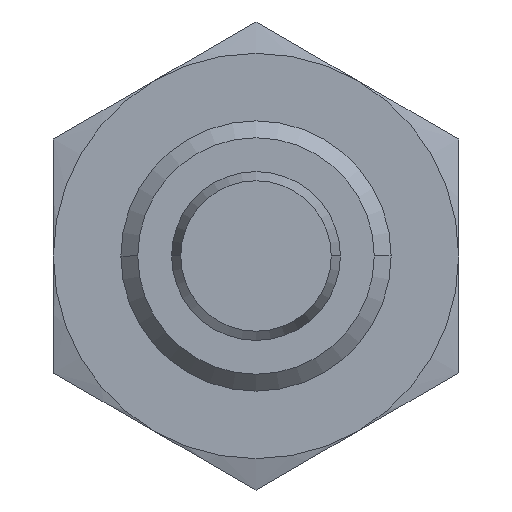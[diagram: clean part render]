
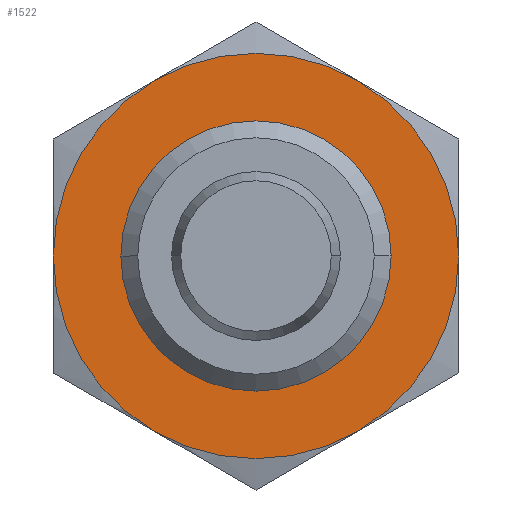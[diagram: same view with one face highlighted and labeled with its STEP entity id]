
A CAD part, front view. The second image highlights one B-rep face of the part: STEP entity #1522.
In plain terms, the highlighted planar face has unit normal (0, -1, 0) as drawn and (0, 0, -1) by its records, which use the part's own axes.
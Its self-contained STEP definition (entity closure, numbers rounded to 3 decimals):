
#36 = EDGE_LOOP ( 'NONE', ( #66, #1346 ) ) ;
#66 = ORIENTED_EDGE ( 'NONE', *, *, #827, .T. ) ;
#119 = ORIENTED_EDGE ( 'NONE', *, *, #3278, .T. ) ;
#146 = CARTESIAN_POINT ( 'NONE',  ( 6., 10.392, -4. ) ) ;
#147 = CARTESIAN_POINT ( 'NONE',  ( 0., -13.856, -4. ) ) ;
#167 = DIRECTION ( 'NONE',  ( 0., 0., -1. ) ) ;
#220 = CIRCLE ( 'NONE', #2770, 12. ) ;
#232 = DIRECTION ( 'NONE',  ( 0., 0., 1. ) ) ;
#253 = DIRECTION ( 'NONE',  ( 0., 0., -1. ) ) ;
#336 = CARTESIAN_POINT ( 'NONE',  ( -6., -10.392, -4. ) ) ;
#388 = EDGE_CURVE ( 'NONE', #1636, #657, #2805, .T. ) ;
#404 = CIRCLE ( 'NONE', #3018, 7.25 ) ;
#414 = DIRECTION ( 'NONE',  ( 0., 0., -1. ) ) ;
#479 = EDGE_CURVE ( 'NONE', #657, #1028, #2694, .T. ) ;
#532 = DIRECTION ( 'NONE',  ( -1., 0., 0. ) ) ;
#590 = AXIS2_PLACEMENT_3D ( 'NONE', #1426, #3186, #532 ) ;
#657 = VERTEX_POINT ( 'NONE', #3747 ) ;
#815 = FACE_OUTER_BOUND ( 'NONE', #1112, .T. ) ;
#817 = VERTEX_POINT ( 'NONE', #3308 ) ;
#819 = CARTESIAN_POINT ( 'NONE',  ( 0., 0., -4. ) ) ;
#827 = EDGE_CURVE ( 'NONE', #2067, #2339, #404, .T. ) ;
#839 = DIRECTION ( 'NONE',  ( 0., 0., -1. ) ) ;
#915 = CARTESIAN_POINT ( 'NONE',  ( 0., 0., -4. ) ) ;
#1028 = VERTEX_POINT ( 'NONE', #146 ) ;
#1038 = EDGE_CURVE ( 'NONE', #1489, #3266, #220, .T. ) ;
#1105 = CARTESIAN_POINT ( 'NONE',  ( 6., -10.392, -4. ) ) ;
#1109 = AXIS2_PLACEMENT_3D ( 'NONE', #2922, #253, #3790 ) ;
#1112 = EDGE_LOOP ( 'NONE', ( #2937, #119, #1402, #1495, #3812, #2433 ) ) ;
#1122 = DIRECTION ( 'NONE',  ( 1., 0., 0. ) ) ;
#1142 = CIRCLE ( 'NONE', #1646, 12. ) ;
#1204 = EDGE_CURVE ( 'NONE', #3266, #1636, #1142, .T. ) ;
#1219 = CARTESIAN_POINT ( 'NONE',  ( -12., 0., -4. ) ) ;
#1346 = ORIENTED_EDGE ( 'NONE', *, *, #3106, .T. ) ;
#1361 = AXIS2_PLACEMENT_3D ( 'NONE', #2284, #3719, #1968 ) ;
#1402 = ORIENTED_EDGE ( 'NONE', *, *, #1038, .T. ) ;
#1426 = CARTESIAN_POINT ( 'NONE',  ( 0., 0., -4. ) ) ;
#1489 = VERTEX_POINT ( 'NONE', #1105 ) ;
#1495 = ORIENTED_EDGE ( 'NONE', *, *, #1204, .T. ) ;
#1522 = ADVANCED_FACE ( 'NONE', ( #815, #3770 ), #2007, .F. ) ;
#1636 = VERTEX_POINT ( 'NONE', #1219 ) ;
#1646 = AXIS2_PLACEMENT_3D ( 'NONE', #915, #2117, #3281 ) ;
#1912 = CARTESIAN_POINT ( 'NONE',  ( 0., 0., -4. ) ) ;
#1930 = DIRECTION ( 'NONE',  ( -1., 0., 0. ) ) ;
#1968 = DIRECTION ( 'NONE',  ( 1., 0., 0. ) ) ;
#2007 = PLANE ( 'NONE',  #3441 ) ;
#2067 = VERTEX_POINT ( 'NONE', #2994 ) ;
#2117 = DIRECTION ( 'NONE',  ( 0., 0., -1. ) ) ;
#2127 = CIRCLE ( 'NONE', #1109, 12. ) ;
#2135 = AXIS2_PLACEMENT_3D ( 'NONE', #819, #839, #2286 ) ;
#2284 = CARTESIAN_POINT ( 'NONE',  ( 0., 0., -4. ) ) ;
#2286 = DIRECTION ( 'NONE',  ( -1., 0., 0. ) ) ;
#2339 = VERTEX_POINT ( 'NONE', #2574 ) ;
#2433 = ORIENTED_EDGE ( 'NONE', *, *, #479, .T. ) ;
#2574 = CARTESIAN_POINT ( 'NONE',  ( 7.25, 0., -4. ) ) ;
#2694 = CIRCLE ( 'NONE', #2135, 12. ) ;
#2738 = CARTESIAN_POINT ( 'NONE',  ( 0., 0., -4. ) ) ;
#2768 = DIRECTION ( 'NONE',  ( 0., 0., 1. ) ) ;
#2770 = AXIS2_PLACEMENT_3D ( 'NONE', #3672, #167, #3144 ) ;
#2805 = CIRCLE ( 'NONE', #3415, 12. ) ;
#2853 = CIRCLE ( 'NONE', #1361, 7.25 ) ;
#2922 = CARTESIAN_POINT ( 'NONE',  ( 0., 0., -4. ) ) ;
#2937 = ORIENTED_EDGE ( 'NONE', *, *, #3734, .T. ) ;
#2994 = CARTESIAN_POINT ( 'NONE',  ( -7.25, 0., -4. ) ) ;
#3018 = AXIS2_PLACEMENT_3D ( 'NONE', #2738, #2768, #3045 ) ;
#3045 = DIRECTION ( 'NONE',  ( 1., 0., 0. ) ) ;
#3106 = EDGE_CURVE ( 'NONE', #2339, #2067, #2853, .T. ) ;
#3144 = DIRECTION ( 'NONE',  ( -1., 0., 0. ) ) ;
#3186 = DIRECTION ( 'NONE',  ( 0., 0., -1. ) ) ;
#3266 = VERTEX_POINT ( 'NONE', #336 ) ;
#3278 = EDGE_CURVE ( 'NONE', #817, #1489, #2127, .T. ) ;
#3281 = DIRECTION ( 'NONE',  ( -1., 0., 0. ) ) ;
#3308 = CARTESIAN_POINT ( 'NONE',  ( 12., 0., -4. ) ) ;
#3415 = AXIS2_PLACEMENT_3D ( 'NONE', #1912, #414, #1930 ) ;
#3441 = AXIS2_PLACEMENT_3D ( 'NONE', #147, #232, #1122 ) ;
#3672 = CARTESIAN_POINT ( 'NONE',  ( 0., 0., -4. ) ) ;
#3719 = DIRECTION ( 'NONE',  ( 0., 0., 1. ) ) ;
#3734 = EDGE_CURVE ( 'NONE', #1028, #817, #3738, .T. ) ;
#3738 = CIRCLE ( 'NONE', #590, 12. ) ;
#3747 = CARTESIAN_POINT ( 'NONE',  ( -6., 10.392, -4. ) ) ;
#3770 = FACE_BOUND ( 'NONE', #36, .T. ) ;
#3790 = DIRECTION ( 'NONE',  ( -1., 0., 0. ) ) ;
#3812 = ORIENTED_EDGE ( 'NONE', *, *, #388, .T. ) ;
